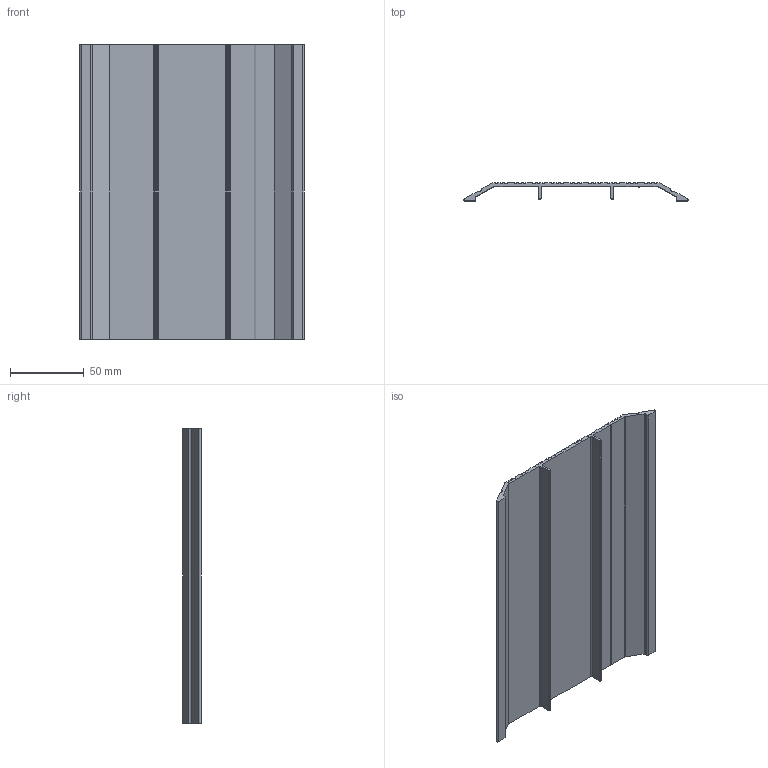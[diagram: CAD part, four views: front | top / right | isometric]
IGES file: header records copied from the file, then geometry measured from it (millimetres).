
Global section: file name: No Iges File Name specified; native system: Autodesk Inventor 2012; preprocessor: AutoDesk Inventor Iges Exporter R2012; author: anna.b; date: 20130614.100950; units: millimetre
Bounding box: 152.4 x 12.5 x 200 mm (x, y, z)
Volume: 81693.3 mm3; surface area: 77122.2 mm2
Topology: 1 solids, 1 shells, 100 faces, 294 edges, 196 vertices
Faces by surface type: plane 51, revolution 37, cylinder 12
